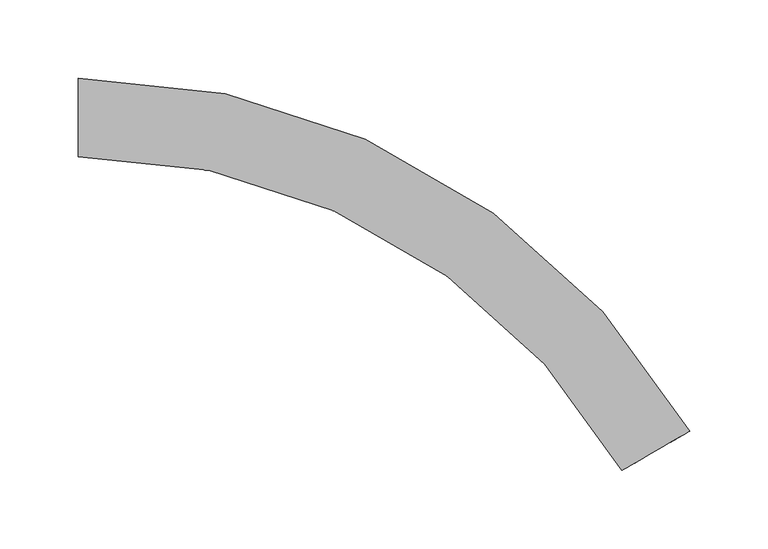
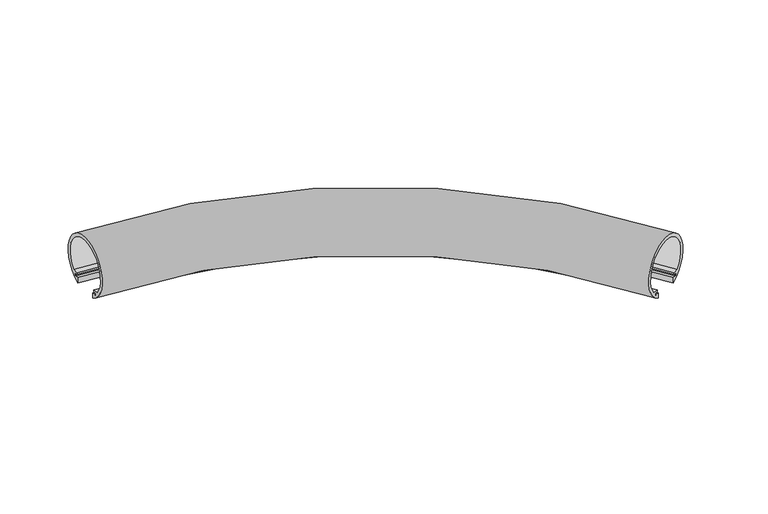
"""IFC4 building model written with IfcOpenShell, lengths in millimetres: light fixture geometry, ARTEMIDE-AoL-System-Curved_Suspended_US : Suspended_Curved 60°-425mm 815lm 3000K."""

from ifc_helpers import new_model, si_unit, point, frame, origin, place, context, project, spatial, polyline, circle_curve, ellipse_curve, trimmed, source, transform, mapped, element, save
from ifc_brep_helpers import plane_surface, cylinder_surface, revolved_surface, advanced_brep


def light_fixture_c241b134(model_context):
    return source(origin(), model_context, "Body", "AdvancedBrep", [
        advanced_brep(
        [(355.1471039, -171.6760327, 502.6676119), (355.1471039, -171.6760327, 507.259212), (357.1262259, -170.2643387, 507.259212), (357.1262259, -170.2643387, 509.244074), (356.3121104, -170.8450416, 509.244074), (356.3121104, -170.8450416, 510.744074), (335.6860802, -185.557446, 510.744074), (335.6860802, -185.557446, 509.244074), (334.8719647, -186.138149, 509.244074), (334.8719647, -186.138149, 507.259212), (336.8510867, -184.7264549, 507.259212), (336.8510867, -184.7264549, 502.6676119), (39.6574505, -13.1416291, 502.6676119), (41.8114391, 9.2283977, 502.6676119), (41.8114391, 9.2283977, 507.259212), (42.044441, 11.6482147, 507.259212), (42.044441, 11.6482147, 509.244074), (41.9485952, 10.6528185, 509.244074), (41.9485952, 10.6528185, 510.744074), (39.5202944, -14.5660499, 510.744074), (39.5202944, -14.5660499, 509.244074), (39.4244487, -15.5614461, 509.244074), (39.4244487, -15.5614461, 507.259212), (39.6574505, -13.1416291, 507.259212)],
        [
            (0, 1),
            (1, 2),
            (2, 3),
            (3, 4),
            (4, 5),
            (5, 6),
            (6, 7),
            (7, 8),
            (8, 9),
            (9, 10),
            (10, 11),
            (11, 0, circle_curve(frame((345.9990953, -178.2012438, 525.0), z_axis=(0.5807029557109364, -0.8141155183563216, 0.0), x_axis=(0.8141155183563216, 0.5807029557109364, 0.0)), 25.0)),
            (11, 12, circle_curve(frame((0.0, -425.0, 502.6676119), z_axis=(0.0, 0.0, 1.0), x_axis=(0.0, 1.0, 0.0)), 413.7632549)),
            (12, 13, circle_curve(frame((40.7344448, -1.9566157, 525.0), z_axis=(0.9953961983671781, -0.09584575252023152, 0.0), x_axis=(0.09584575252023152, 0.9953961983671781, 0.0)), 25.0)),
            (13, 0, circle_curve(frame((0.0, -425.0, 502.6676119), z_axis=(0.0, 0.0, -1.0), x_axis=(0.0, 1.0, 0.0)), 436.2367451)),
            (13, 14),
            (14, 1, circle_curve(frame((0.0, -425.0, 507.259212), z_axis=(0.0, 0.0, -1.0), x_axis=(0.0, 1.0, 0.0)), 436.2367451)),
            (14, 15),
            (15, 2, circle_curve(frame((0.0, -425.0, 507.259212), z_axis=(0.0, 0.0, -1.0), x_axis=(0.0, 1.0, 0.0)), 438.667754)),
            (15, 16),
            (16, 3, circle_curve(frame((0.0, -425.0, 509.244074), z_axis=(0.0, 0.0, -1.0), x_axis=(0.0, 1.0, 0.0)), 438.667754)),
            (16, 17),
            (17, 4, circle_curve(frame((0.0, -425.0, 509.244074), z_axis=(0.0, 0.0, -1.0), x_axis=(0.0, 1.0, 0.0)), 437.667754)),
            (17, 18),
            (18, 5, circle_curve(frame((0.0, -425.0, 510.744074), z_axis=(0.0, 0.0, -1.0), x_axis=(0.0, 1.0, 0.0)), 437.667754)),
            (18, 19),
            (19, 6, circle_curve(frame((0.0, -425.0, 510.744074), z_axis=(0.0, 0.0, -1.0), x_axis=(0.0, 1.0, 0.0)), 412.332246)),
            (19, 20),
            (20, 7, circle_curve(frame((0.0, -425.0, 509.244074), z_axis=(0.0, 0.0, -1.0), x_axis=(0.0, 1.0, 0.0)), 412.332246)),
            (20, 21),
            (21, 8, circle_curve(frame((0.0, -425.0, 509.244074), z_axis=(0.0, 0.0, -1.0), x_axis=(0.0, 1.0, 0.0)), 411.332246)),
            (21, 22),
            (22, 9, circle_curve(frame((0.0, -425.0, 507.259212), z_axis=(0.0, 0.0, -1.0), x_axis=(0.0, 1.0, 0.0)), 411.332246)),
            (22, 23),
            (23, 10, circle_curve(frame((0.0, -425.0, 507.259212), z_axis=(0.0, 0.0, -1.0), x_axis=(0.0, 1.0, 0.0)), 413.7632549)),
            (23, 12),
        ],
        [
            plane_surface(frame((345.9990953, -178.2012438, 500.0), z_axis=(0.5807029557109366, -0.8141155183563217, 0.0), x_axis=(0.0, 0.0, 1.0))),
            revolved_surface(trimmed(ellipse_curve(frame((0.0, 0.0, 525.0), z_axis=(-1.0, 0.0, 0.0), x_axis=(0.0, 1.0, 0.0)), 25.0, 25.0), [point((0.0, 11.2367451, 502.6676119))], [point((0.0, -11.2367451, 502.6676119))], True, "CARTESIAN"), (0.0, -425.0, 500.0), (0.0, 0.0, -1.0)),
            cylinder_surface(frame((0.0, -425.0, 500.0), z_axis=(0.0, 0.0, -1.0), x_axis=(0.0, 1.0, 0.0)), 436.2367451),
            plane_surface(frame((0.0, -425.0, 507.259212), z_axis=(0.0, 0.0, -1.0), x_axis=(0.0, 1.0, 0.0))),
            cylinder_surface(frame((0.0, -425.0, 500.0), z_axis=(0.0, 0.0, -1.0), x_axis=(0.0, 1.0, 0.0)), 438.667754),
            plane_surface(frame((0.0, -425.0, 509.244074), z_axis=(0.0, 0.0, 1.0), x_axis=(0.0, 1.0, 0.0))),
            cylinder_surface(frame((0.0, -425.0, 500.0), z_axis=(0.0, 0.0, -1.0), x_axis=(0.0, 1.0, 0.0)), 437.667754),
            plane_surface(frame((0.0, -425.0, 510.744074), z_axis=(0.0, 0.0, 1.0), x_axis=(0.0, 1.0, 0.0))),
            revolved_surface(polyline([(0.0, -12.667754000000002, 509.244074), (0.0, -12.667754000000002, 510.744074)]), (0.0, -425.0, 500.0), (0.0, 0.0, -1.0)),
            revolved_surface(polyline([(0.0, -13.667754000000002, 507.259212), (0.0, -13.667754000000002, 509.244074)]), (0.0, -425.0, 500.0), (0.0, 0.0, -1.0)),
            revolved_surface(polyline([(0.0, -11.236745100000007, 502.6676119), (0.0, -11.236745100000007, 507.259212)]), (0.0, -425.0, 500.0), (0.0, 0.0, -1.0)),
            plane_surface(frame((40.7344448, -1.9566157, 500.0), z_axis=(-0.9953961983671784, 0.09584575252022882, 0.0), x_axis=(0.0, 0.0, 1.0))),
        ],
        [
            (0, [[1, 2, 3, 4, 5, 6, 7, 8, 9, 10, 11, 12]]),
            (1, [[-12, 13, 14, 15]]),
            (2, [[-1, -15, 16, 17]]),
            (3, [[-2, -17, 18, 19]]),
            (4, [[-3, -19, 20, 21]]),
            (5, [[-4, -21, 22, 23]]),
            (6, [[-5, -23, 24, 25]]),
            (7, [[-6, -25, 26, 27]]),
            (8, [[-7, -27, 28, 29]]),
            (5, [[-8, -29, 30, 31]]),
            (9, [[-9, -31, 32, 33]]),
            (3, [[-10, -33, 34, 35]]),
            (10, [[-11, -35, 36, -13]]),
            (11, [[-14, -36, -34, -32, -30, -28, -26, -24, -22, -20, -18, -16]]),
        ],
    ),
        advanced_brep(
        [(0.0, -11.2367451, 502.6676119), (0.0, 11.2367451, 502.6676119), (0.0, 11.2367451, 507.259212), (0.0, 13.667754, 507.259212), (0.0, 13.667754, 505.8288843), (0.0, 15.617754, 507.2440748), (0.0, 15.617754, 509.244074), (0.0, 12.667754, 509.244074), (0.0, 12.667754, 510.744074), (0.0, 17.2779794, 510.744074), (0.0, -17.2779794, 510.744074), (0.0, -12.667754, 510.744074), (0.0, -12.667754, 509.244074), (0.0, -15.617754, 509.244074), (0.0, -15.617754, 507.2440748), (0.0, -13.667754, 505.8288843), (0.0, -13.667754, 507.259212), (0.0, -11.2367451, 507.259212), (358.3294899, -218.1183726, 502.6676119), (358.3294899, -218.1183726, 507.259212), (356.2241744, -219.333877, 507.259212), (356.2241744, -219.333877, 505.8288843), (354.5354249, -220.308877, 507.2440748), (354.5354249, -220.308877, 509.244074), (357.0901998, -218.833877, 509.244074), (357.0901998, -218.833877, 510.744074), (353.0976275, -221.1389897, 510.744074), (383.0239657, -203.8610103, 510.744074), (379.0313934, -206.166123, 510.744074), (379.0313934, -206.166123, 509.244074), (381.5861683, -204.691123, 509.244074), (381.5861683, -204.691123, 507.2440748), (379.8974188, -205.666123, 505.8288843), (379.8974188, -205.666123, 507.259212), (377.7921033, -206.8816274, 507.259212), (377.7921033, -206.8816274, 502.6676119)],
        [
            (0, 1, circle_curve(frame((0.0, 0.0, 525.0), z_axis=(-1.0, 0.0, 0.0), x_axis=(0.0, 1.0, 0.0)), 25.0)),
            (1, 2),
            (2, 3),
            (3, 4),
            (4, 5),
            (5, 6),
            (6, 7),
            (7, 8),
            (8, 9),
            (9, 10, circle_curve(frame((0.0, 0.0, 525.0), z_axis=(1.0, 0.0, 0.0), x_axis=(0.0, 1.0, 0.0)), 22.4)),
            (10, 11),
            (11, 12),
            (12, 13),
            (13, 14),
            (14, 15),
            (15, 16),
            (16, 17),
            (17, 0),
            (18, 19),
            (19, 20),
            (20, 21),
            (21, 22),
            (22, 23),
            (23, 24),
            (24, 25),
            (25, 26),
            (26, 27, circle_curve(frame((368.0607966, -212.5, 525.0), z_axis=(-0.49999999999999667, 0.8660254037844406, 0.0), x_axis=(0.8660254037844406, 0.49999999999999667, 0.0)), 22.4)),
            (27, 28),
            (28, 29),
            (29, 30),
            (30, 31),
            (31, 32),
            (32, 33),
            (33, 34),
            (34, 35),
            (35, 18, circle_curve(frame((368.0607966, -212.5, 525.0), z_axis=(0.49999999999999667, -0.8660254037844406, 0.0), x_axis=(0.8660254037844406, 0.49999999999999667, 0.0)), 25.0)),
            (35, 1, circle_curve(frame((0.0, -425.0, 502.6676119), z_axis=(0.0, 0.0, 1.0), x_axis=(0.0, 1.0, 0.0)), 436.2367451)),
            (0, 18, circle_curve(frame((0.0, -425.0, 502.6676119), z_axis=(0.0, 0.0, -1.0), x_axis=(0.0, 1.0, 0.0)), 413.7632549)),
            (34, 2, circle_curve(frame((0.0, -425.0, 507.259212), z_axis=(0.0, 0.0, 1.0), x_axis=(0.0, 1.0, 0.0)), 436.2367451)),
            (33, 3, circle_curve(frame((0.0, -425.0, 507.259212), z_axis=(0.0, 0.0, 1.0), x_axis=(0.0, 1.0, 0.0)), 438.667754)),
            (32, 4, circle_curve(frame((0.0, -425.0, 505.8288843), z_axis=(0.0, 0.0, 1.0), x_axis=(0.0, 1.0, 0.0)), 438.667754)),
            (31, 5, circle_curve(frame((0.0, -425.0, 507.2440748), z_axis=(0.0, 0.0, 1.0), x_axis=(0.0, 1.0, 0.0)), 440.617754)),
            (30, 6, circle_curve(frame((0.0, -425.0, 509.244074), z_axis=(0.0, 0.0, 1.0), x_axis=(0.0, 1.0, 0.0)), 440.617754)),
            (29, 7, circle_curve(frame((0.0, -425.0, 509.244074), z_axis=(0.0, 0.0, 1.0), x_axis=(0.0, 1.0, 0.0)), 437.667754)),
            (28, 8, circle_curve(frame((0.0, -425.0, 510.744074), z_axis=(0.0, 0.0, 1.0), x_axis=(0.0, 1.0, 0.0)), 437.667754)),
            (27, 9, circle_curve(frame((0.0, -425.0, 510.744074), z_axis=(0.0, 0.0, 1.0), x_axis=(0.0, 1.0, 0.0)), 442.2779794)),
            (25, 11, circle_curve(frame((0.0, -425.0, 510.744074), z_axis=(0.0, 0.0, 1.0), x_axis=(0.0, 1.0, 0.0)), 412.332246)),
            (10, 26, circle_curve(frame((0.0, -425.0, 510.744074), z_axis=(0.0, 0.0, -1.0), x_axis=(0.0, 1.0, 0.0)), 407.7220206)),
            (24, 12, circle_curve(frame((0.0, -425.0, 509.244074), z_axis=(0.0, 0.0, 1.0), x_axis=(0.0, 1.0, 0.0)), 412.332246)),
            (23, 13, circle_curve(frame((0.0, -425.0, 509.244074), z_axis=(0.0, 0.0, 1.0), x_axis=(0.0, 1.0, 0.0)), 409.382246)),
            (22, 14, circle_curve(frame((0.0, -425.0, 507.2440748), z_axis=(0.0, 0.0, 1.0), x_axis=(0.0, 1.0, 0.0)), 409.382246)),
            (21, 15, circle_curve(frame((0.0, -425.0, 505.8288843), z_axis=(0.0, 0.0, 1.0), x_axis=(0.0, 1.0, 0.0)), 411.332246)),
            (20, 16, circle_curve(frame((0.0, -425.0, 507.259212), z_axis=(0.0, 0.0, 1.0), x_axis=(0.0, 1.0, 0.0)), 411.332246)),
            (19, 17, circle_curve(frame((0.0, -425.0, 507.259212), z_axis=(0.0, 0.0, 1.0), x_axis=(0.0, 1.0, 0.0)), 413.7632549)),
        ],
        [
            plane_surface(frame((0.0, 0.0, 500.0), z_axis=(-1.0, 0.0, 0.0), x_axis=(0.0, 0.0, 1.0))),
            plane_surface(frame((368.0607966, -212.5, 500.0), z_axis=(0.49999999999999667, -0.8660254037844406, 0.0), x_axis=(0.0, 0.0, 1.0))),
            revolved_surface(trimmed(ellipse_curve(frame((0.0, 0.0, 525.0), z_axis=(-1.0, 0.0, 0.0), x_axis=(0.0, 1.0, 0.0)), 25.0, 25.0), [point((0.0, -11.2367451, 502.6676119))], [point((0.0, 11.2367451, 502.6676119))], True, "CARTESIAN"), (0.0, -425.0, 500.0), (0.0, 0.0, -1.0)),
            revolved_surface(polyline([(0.0, 11.236745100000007, 502.6676119), (0.0, 11.236745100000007, 507.259212)]), (0.0, -425.0, 500.0), (0.0, 0.0, -1.0)),
            plane_surface(frame((0.0, -425.0, 507.259212), z_axis=(0.0, 0.0, 1.0), x_axis=(0.0, 1.0, 0.0))),
            cylinder_surface(frame((0.0, -425.0, 500.0), z_axis=(0.0, 0.0, -1.0), x_axis=(0.0, 1.0, 0.0)), 438.667754),
            revolved_surface(polyline([(0.0, 13.667754, 505.8288843), (0.0, 15.617754, 507.2440748)]), (0.0, -425.0, 500.0), (0.0, 0.0, -1.0)),
            revolved_surface(polyline([(0.0, 15.61775399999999, 507.2440748), (0.0, 15.61775399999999, 509.244074)]), (0.0, -425.0, 500.0), (0.0, 0.0, -1.0)),
            plane_surface(frame((0.0, -425.0, 509.244074), z_axis=(0.0, 0.0, -1.0), x_axis=(0.0, 1.0, 0.0))),
            revolved_surface(polyline([(0.0, 12.667754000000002, 509.244074), (0.0, 12.667754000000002, 510.744074)]), (0.0, -425.0, 500.0), (0.0, 0.0, -1.0)),
            plane_surface(frame((0.0, -425.0, 510.744074), z_axis=(0.0, 0.0, 1.0), x_axis=(0.0, 1.0, 0.0))),
            cylinder_surface(frame((0.0, -425.0, 500.0), z_axis=(0.0, 0.0, -1.0), x_axis=(0.0, 1.0, 0.0)), 412.332246),
            cylinder_surface(frame((0.0, -425.0, 500.0), z_axis=(0.0, 0.0, -1.0), x_axis=(0.0, 1.0, 0.0)), 409.382246),
            revolved_surface(polyline([(0.0, -15.617754, 507.2440748), (0.0, -13.667754, 505.8288843)]), (0.0, -425.0, 500.0), (0.0, 0.0, -1.0)),
            revolved_surface(polyline([(0.0, -13.667754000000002, 505.8288843), (0.0, -13.667754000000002, 507.259212)]), (0.0, -425.0, 500.0), (0.0, 0.0, -1.0)),
            cylinder_surface(frame((0.0, -425.0, 500.0), z_axis=(0.0, 0.0, -1.0), x_axis=(0.0, 1.0, 0.0)), 413.7632549),
            revolved_surface(trimmed(ellipse_curve(frame((0.0, 0.0, 525.0), z_axis=(1.0, 0.0, 0.0), x_axis=(0.0, 1.0, 0.0)), 22.4, 22.4), [point((0.0, 17.2779794, 510.744074))], [point((0.0, -17.2779794, 510.744074))], True, "CARTESIAN"), (0.0, -425.0, 500.0), (0.0, 0.0, -1.0)),
        ],
        [
            (0, [[1, 2, 3, 4, 5, 6, 7, 8, 9, 10, 11, 12, 13, 14, 15, 16, 17, 18]]),
            (1, [[19, 20, 21, 22, 23, 24, 25, 26, 27, 28, 29, 30, 31, 32, 33, 34, 35, 36]]),
            (2, [[37, -1, 38, -36]]),
            (3, [[39, -2, -37, -35]]),
            (4, [[40, -3, -39, -34]]),
            (5, [[41, -4, -40, -33]]),
            (6, [[42, -5, -41, -32]]),
            (7, [[43, -6, -42, -31]]),
            (8, [[44, -7, -43, -30]]),
            (9, [[45, -8, -44, -29]]),
            (10, [[46, -9, -45, -28]]),
            (10, [[47, -11, 48, -26]]),
            (11, [[49, -12, -47, -25]]),
            (8, [[50, -13, -49, -24]]),
            (12, [[51, -14, -50, -23]]),
            (13, [[52, -15, -51, -22]]),
            (14, [[53, -16, -52, -21]]),
            (4, [[54, -17, -53, -20]]),
            (15, [[-38, -18, -54, -19]]),
            (16, [[-48, -10, -46, -27]]),
        ],
    ),
    ])


if __name__ == "__main__":
    model = new_model("IFC4")
    model_context = context("Model", 3, world=origin())
    ifc_project = project(units=[si_unit("LENGTHUNIT", "METRE", prefix="MILLI")], contexts=[model_context])
    site = spatial("IfcSite", under=ifc_project)
    building = spatial("IfcBuilding", under=site)
    placement = place(None, origin())
    light_fixture_shape = light_fixture_c241b134(model_context)
    element("IfcLightFixture", 1, ObjectType="ARTEMIDE-AoL-System-Curved_Suspended_US : Suspended_Curved 60°-425mm 815lm 3000K", at=placement, inside=building, context=model_context, shape_type="MappedRepresentation", body=[
        mapped(light_fixture_shape, transform((0.0, 0.0, 0.0), x_axis=(1.0, 0.0, 0.0), y_axis=(0.0, 1.0, 0.0), z_axis=(0.0, 0.0, 1.0))),
    ])
    save(model, "model.ifc")
